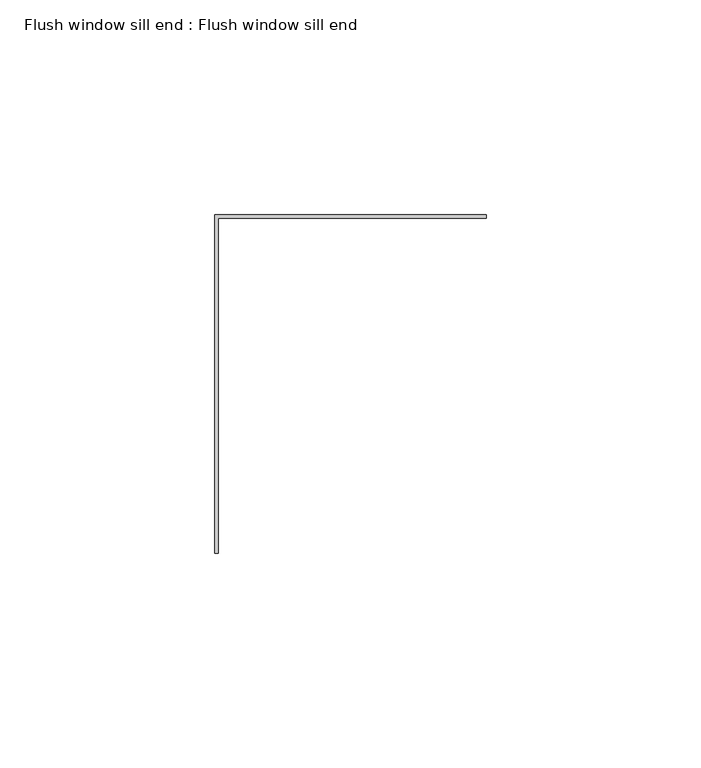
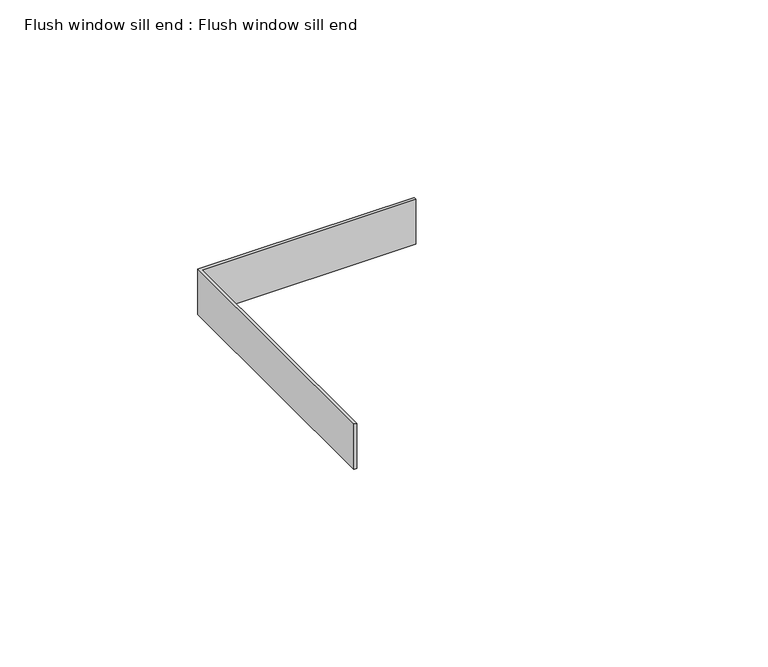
"""IFC4 building model written with IfcOpenShell, lengths in millimetres: proxy geometry, Flush window sill end : Flush window sill end."""

import ifcopenshell
import ifcopenshell.guid

model = None  # the IFC model being written
_history = None  # IfcOwnerHistory: only IFC2X3 demands one
_inside = {}  # id of a spatial element -> (the spatial element, [elements in it])
_under = {}  # id of a project, library or spatial element -> (it, [spatial elements below it])
_declared = {}  # id of a project -> (the project, [libraries it declares])
_typed = {}  # id of a type object -> (the type object, [elements of that type])
_made_of = {}  # id of a material, layer set ... -> (it, [elements and type objects made of it])


def new_model(schema):
    """Start an empty IFC model of exactly this schema.

    Asked for "IFC4X3", IfcOpenShell would pick the latest addendum, in which some entities
    have other attributes; the version numbers below select the first issue.
    IFC2X3 requires an IfcOwnerHistory on every rooted entity: one is made here for all.
    """
    global model, _history
    if schema == "IFC4X3":
        model = ifcopenshell.file(schema_version=(4, 3, 0, 0))
    else:
        model = ifcopenshell.file(schema=schema)
    _inside.clear()
    _under.clear()
    _declared.clear()
    _typed.clear()
    _made_of.clear()
    _history = None
    if model.schema == "IFC2X3":
        org = make("IfcOrganization", Name="unknown")
        user = make(
            "IfcPersonAndOrganization",
            ThePerson=make("IfcPerson", FamilyName="unknown"),
            TheOrganization=org,
        )
        app = make(
            "IfcApplication",
            ApplicationDeveloper=org,
            Version="unknown",
            ApplicationFullName="unknown",
            ApplicationIdentifier="unknown",
        )
        _history = make(
            "IfcOwnerHistory",
            OwningUser=user,
            OwningApplication=app,
            ChangeAction="ADDED",
            CreationDate=0,
        )
    return model


def make(cls, **values):
    """One entity of the class cls with the attributes given. An attribute that is None is left unset."""
    return model.create_entity(
        cls, **{name: value for name, value in values.items() if value is not None}
    )


def rooted(cls, **values):
    """An entity with a GlobalId (a new one), such as an element, a storey or a relation."""
    return make(cls, GlobalId=ifcopenshell.guid.new(), OwnerHistory=_history, **values)


def si_unit(unit_type, name, prefix=None):
    """IfcSIUnit, for example si_unit("LENGTHUNIT", "METRE", prefix="MILLI")."""
    return make("IfcSIUnit", UnitType=unit_type, Prefix=prefix, Name=name)


def assignment(units):
    """IfcUnitAssignment: the units of a project."""
    return None if units is None else make("IfcUnitAssignment", Units=units)


def point(xyz):
    """IfcCartesianPoint."""
    return None if xyz is None else make("IfcCartesianPoint", Coordinates=xyz)


def direction(xyz):
    """IfcDirection."""
    return None if xyz is None else make("IfcDirection", DirectionRatios=xyz)


def frame(location, z_axis=None, x_axis=None):
    """IfcAxis2Placement3D, a coordinate frame: its origin and axes. An axis left out is left unset."""
    return make(
        "IfcAxis2Placement3D",
        Location=point(location),
        Axis=direction(z_axis),
        RefDirection=direction(x_axis),
    )


def origin():
    """The frame at (0, 0, 0) with its axes left unset."""
    return frame((0.0, 0.0, 0.0))


def place(relative_to, where):
    """IfcLocalPlacement: puts the frame where relative to a parent placement (None: the world)."""
    return make(
        "IfcLocalPlacement", PlacementRelTo=relative_to, RelativePlacement=where
    )


def context(
    kind, dimensions, precision=None, world=None, true_north=None, identifier=None
):
    """IfcGeometricRepresentationContext, for example the 3D "Model" context."""
    return make(
        "IfcGeometricRepresentationContext",
        ContextIdentifier=identifier,
        ContextType=kind,
        CoordinateSpaceDimension=dimensions,
        Precision=precision,
        WorldCoordinateSystem=world,
        TrueNorth=true_north,
    )


def project(units=None, contexts=None):
    """IfcProject with its units and contexts."""
    return rooted(
        "IfcProject",
        Name="project",
        RepresentationContexts=contexts,
        UnitsInContext=assignment(units),
    )


def spatial(cls, under=None, at=None, **own):
    """A site, building, storey or space (cls), placed at a placement, below another one or the project."""
    s = rooted(cls, ObjectPlacement=at, **own)
    if under is not None:
        _under.setdefault(under.id(), (under, []))[1].append(s)
    return s


def polyline(points):
    """IfcPolyline through the points."""
    return make("IfcPolyline", Points=[point(p) for p in points])


def outline(outer, holes=None, kind="AREA"):
    """IfcArbitraryClosedProfileDef: a profile drawn as a closed curve; with holes, ...WithVoids."""
    if holes is None:
        return make("IfcArbitraryClosedProfileDef", ProfileType=kind, OuterCurve=outer)
    return make(
        "IfcArbitraryProfileDefWithVoids",
        ProfileType=kind,
        OuterCurve=outer,
        InnerCurves=holes,
    )


def extrude(swept, where, along, depth):
    """IfcExtrudedAreaSolid: the profile swept, set in the frame where, extruded along a direction by depth."""
    return make(
        "IfcExtrudedAreaSolid",
        SweptArea=swept,
        Position=where,
        ExtrudedDirection=direction(along),
        Depth=depth,
    )


def shape(context_of_items, identifier, shape_type, items):
    """IfcShapeRepresentation: the items that make up one representation, for example the "Body"."""
    return make(
        "IfcShapeRepresentation",
        ContextOfItems=context_of_items,
        RepresentationIdentifier=identifier,
        RepresentationType=shape_type,
        Items=items,
    )


def source(mapping_origin, context_of_items, identifier, shape_type, items):
    """IfcRepresentationMap: a shape defined once, which mapped items show again and again."""
    return make(
        "IfcRepresentationMap",
        MappingOrigin=mapping_origin,
        MappedRepresentation=shape(context_of_items, identifier, shape_type, items),
    )


def transform(
    local_origin,
    x_axis=None,
    y_axis=None,
    z_axis=None,
    scale=None,
    scale2=None,
    scale3=None,
    uniform=True,
):
    """IfcCartesianTransformationOperator3D, or its non-uniform kind. x_axis, y_axis, z_axis: its Axis1, 2, 3."""
    if uniform:
        return make(
            "IfcCartesianTransformationOperator3D",
            Axis1=direction(x_axis),
            Axis2=direction(y_axis),
            LocalOrigin=point(local_origin),
            Scale=scale,
            Axis3=direction(z_axis),
        )
    return make(
        "IfcCartesianTransformationOperator3DnonUniform",
        Axis1=direction(x_axis),
        Axis2=direction(y_axis),
        LocalOrigin=point(local_origin),
        Scale=scale,
        Axis3=direction(z_axis),
        Scale2=scale2,
        Scale3=scale3,
    )


def mapped(mapping_source, mapping_target):
    """IfcMappedItem: shows the shape of a source again, moved by a transform."""
    return make(
        "IfcMappedItem", MappingSource=mapping_source, MappingTarget=mapping_target
    )


def made_of(thing, what):
    """Note that an element or type object is made of a material, layer set ...; save() writes the relation."""
    if what is not None:
        _made_of.setdefault(what.id(), (what, []))[1].append(thing)
    return thing


def element(
    cls,
    number,
    at=None,
    inside=None,
    cuts=None,
    type_object=None,
    material=None,
    context=None,
    identifier="Body",
    shape_type=None,
    held_by="IfcProductDefinitionShape",
    body=None,
    shapes=None,
    **own,
):
    """One element of the class cls, such as IfcWall. Its Tag is "e" and its number.

    at: its placement. inside: the storey or other place that contains it. cuts: it is an
    opening in that element (IfcRelVoidsElement). A single representation is given by context,
    identifier, shape_type and body (its items); several are given by shapes. held_by: the class
    of the entity that holds the representations. save() writes the other relations.
    """
    e = rooted(cls, Tag="e%d" % number, ObjectPlacement=at, **own)
    if body is not None:
        shapes = [shape(context, identifier, shape_type, body)]
    if shapes is not None:
        e.Representation = make(held_by, Representations=shapes)
    if inside is not None:
        _inside.setdefault(inside.id(), (inside, []))[1].append(e)
    if cuts is not None:
        rooted(
            "IfcRelVoidsElement", RelatingBuildingElement=cuts, RelatedOpeningElement=e
        )
    if type_object is not None:
        _typed.setdefault(type_object.id(), (type_object, []))[1].append(e)
    return made_of(e, material)


def aggregate(whole, parts):
    """IfcRelAggregates: a whole, such as a stair, and the parts it consists of."""
    return rooted("IfcRelAggregates", RelatingObject=whole, RelatedObjects=parts)


def save(model, path):
    """Write the relations noted so far, then the file.

    IfcRelAggregates (storeys below a building ...), IfcRelContainedInSpatialStructure (elements
    in a storey), IfcRelDefinesByType, IfcRelAssociatesMaterial and IfcRelDeclares: one each for
    every whole, place, type object, material and project.
    """
    for whole, parts in _under.values():
        aggregate(whole, parts)
    for where, things in _inside.values():
        rooted(
            "IfcRelContainedInSpatialStructure",
            RelatedElements=things,
            RelatingStructure=where,
        )
    for kind, things in _typed.values():
        rooted("IfcRelDefinesByType", RelatedObjects=things, RelatingType=kind)
    for what, things in _made_of.values():
        rooted("IfcRelAssociatesMaterial", RelatedObjects=things, RelatingMaterial=what)
    for by, libraries in _declared.values():
        rooted("IfcRelDeclares", RelatingContext=by, RelatedDefinitions=libraries)
    model.write(path)


def flush_window_sill_end_flush_window_sill_end_780f0b00(model_context):
    return source(origin(), model_context, "Body", "SweptSolid", [
        extrude(outline(polyline([(12428.3060838, 471.3615096), (12427.4791786, 471.3615096), (12427.4791786, 550.3594915), (12490.7910961, 550.3594915), (12490.7910961, 549.5325864), (12428.3060838, 549.5325864), (12428.3060838, 471.3615096)])), frame((0.0, 0.0, -885.662203), z_axis=(0.0, 0.0, 1.0), x_axis=(1.0, 0.0, 0.0)), (0.0, 0.0, 1.0), 13.9452881),
    ])


if __name__ == "__main__":
    model = new_model("IFC4")
    model_context = context("Model", 3, world=origin())
    ifc_project = project(units=[si_unit("LENGTHUNIT", "METRE", prefix="MILLI")], contexts=[model_context])
    site = spatial("IfcSite", under=ifc_project)
    building = spatial("IfcBuilding", under=site)
    placement = place(None, origin())
    flush_window_sill_end_flush_window_sill_end_shape = flush_window_sill_end_flush_window_sill_end_780f0b00(model_context)
    element("IfcBuildingElementProxy", 1, Name="Flush window sill end : Flush window sill end", ObjectType="Flush window sill end : Flush window sill end", at=placement, inside=building, context=model_context, shape_type="MappedRepresentation", body=[
        mapped(flush_window_sill_end_flush_window_sill_end_shape, transform((0.0, 0.0, 0.0), x_axis=(1.0, 0.0, 0.0), y_axis=(0.0, 1.0, 0.0), z_axis=(0.0, 0.0, 1.0))),
    ])
    save(model, "model.ifc")
